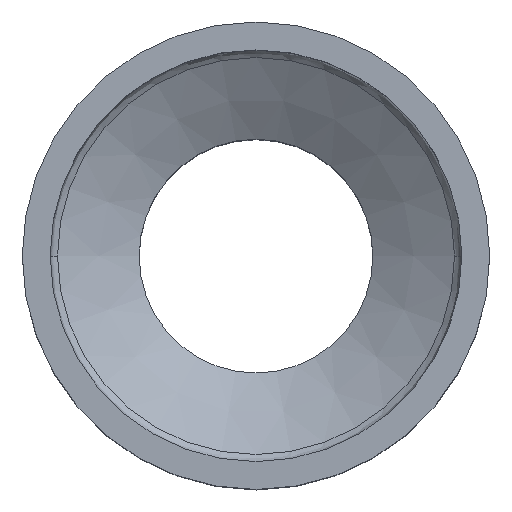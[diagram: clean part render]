
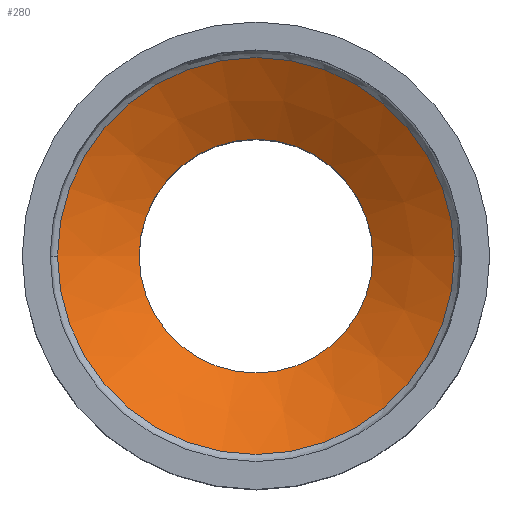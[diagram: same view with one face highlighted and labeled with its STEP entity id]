
A CAD part, top view. The second image highlights one B-rep face of the part: STEP entity #280.
In plain terms, the highlighted conical face has half-angle 60 degrees and reference radius 7.95 mm.
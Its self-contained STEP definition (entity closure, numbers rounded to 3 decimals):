
#19 = DIRECTION ( 'NONE',  ( 1., 0., 0. ) ) ;
#20 = DIRECTION ( 'NONE',  ( 0., 0., -1. ) ) ;
#21 = CARTESIAN_POINT ( 'NONE',  ( 0., 0., -13.57 ) ) ;
#25 = DIRECTION ( 'NONE',  ( 0., -1., 0. ) ) ;
#26 = DIRECTION ( 'NONE',  ( 0., 0., 1. ) ) ;
#27 = CARTESIAN_POINT ( 'NONE',  ( 0., 0., -10.366 ) ) ;
#28 = DIRECTION ( 'NONE',  ( 0., -1., 0. ) ) ;
#29 = DIRECTION ( 'NONE',  ( 0., 0., 1. ) ) ;
#30 = CARTESIAN_POINT ( 'NONE',  ( 0., 0., -10.366 ) ) ;
#71 = CARTESIAN_POINT ( 'NONE',  ( 13.5, 0., -10.366 ) ) ;
#73 = CARTESIAN_POINT ( 'NONE',  ( -13.5, 0., -10.366 ) ) ;
#106 = DIRECTION ( 'NONE',  ( 0., -1., 0. ) ) ;
#107 = DIRECTION ( 'NONE',  ( 0., 0., 1. ) ) ;
#108 = CARTESIAN_POINT ( 'NONE',  ( 0., 0., -13.57 ) ) ;
#141 = AXIS2_PLACEMENT_3D ( 'NONE', #21, #20, #19 ) ;
#144 = AXIS2_PLACEMENT_3D ( 'NONE', #27, #26, #25 ) ;
#145 = AXIS2_PLACEMENT_3D ( 'NONE', #30, #29, #28 ) ;
#154 = FACE_OUTER_BOUND ( 'NONE', #377, .T. ) ;
#189 = AXIS2_PLACEMENT_3D ( 'NONE', #108, #107, #106 ) ;
#196 = FACE_BOUND ( 'NONE', #375, .T. ) ;
#260 = EDGE_CURVE ( 'NONE', #350, #546, #300, .T. ) ;
#261 = EDGE_CURVE ( 'NONE', #546, #350, #301, .T. ) ;
#263 = EDGE_CURVE ( 'NONE', #493, #493, #303, .T. ) ;
#280 = ADVANCED_FACE ( 'NONE', ( #154, #196 ), #309, .F. ) ;
#300 = CIRCLE ( 'NONE', #145, 13.5 ) ;
#301 = CIRCLE ( 'NONE', #144, 13.5 ) ;
#303 = CIRCLE ( 'NONE', #141, 7.95 ) ;
#309 = CONICAL_SURFACE ( 'NONE', #189, 7.95, 1.047 ) ;
#350 = VERTEX_POINT ( 'NONE', #71 ) ;
#355 = ORIENTED_EDGE ( 'NONE', *, *, #263, .T. ) ;
#356 = ORIENTED_EDGE ( 'NONE', *, *, #261, .T. ) ;
#361 = ORIENTED_EDGE ( 'NONE', *, *, #260, .T. ) ;
#375 = EDGE_LOOP ( 'NONE', ( #355 ) ) ;
#377 = EDGE_LOOP ( 'NONE', ( #361, #356 ) ) ;
#493 = VERTEX_POINT ( 'NONE', #494 ) ;
#494 = CARTESIAN_POINT ( 'NONE',  ( 7.95, 0., -13.57 ) ) ;
#546 = VERTEX_POINT ( 'NONE', #73 ) ;
